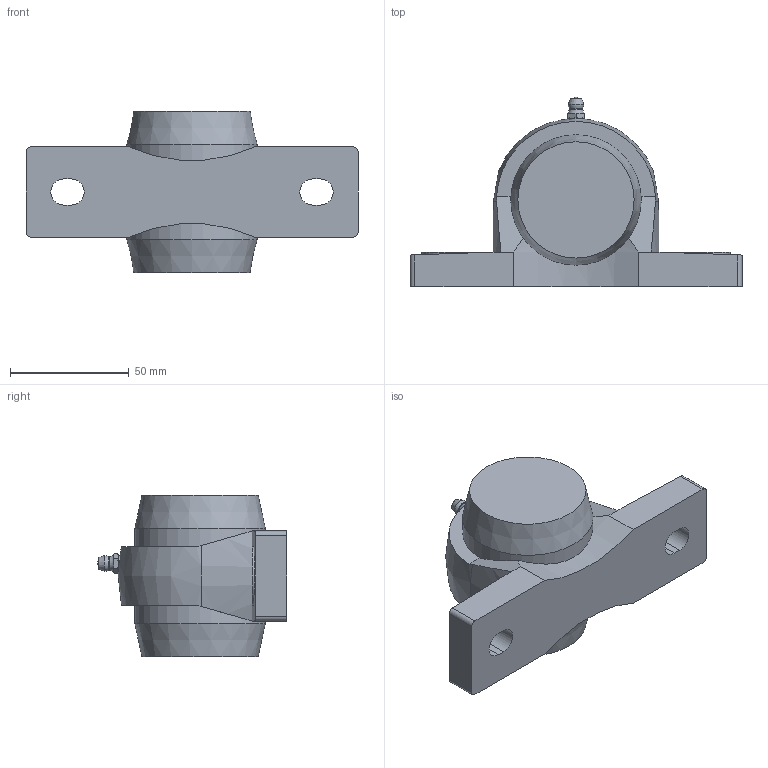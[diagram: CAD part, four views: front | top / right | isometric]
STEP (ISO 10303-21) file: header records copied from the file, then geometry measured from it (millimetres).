
FILE_DESCRIPTION(/* description */ (''),/* implementation_level */ '2;1');
FILE_NAME(/* name */ 'C:\Users\UGijyutu_200702\Desktop\77.プラスチックハウジング\MBPPL200V\MBPPL200VE\MBPPL205VE.stp',/* time_stamp */ '2023-02-10T16:36:16+09:00',/* author */ ('UGijyutu_200702'),/* organization */ (''),/* preprocessor_version */ 'ST-DEVELOPER v18',/* originating_system */ 'Autodesk Inventor 2020',/* authorisation */ '');
FILE_SCHEMA (('AUTOMOTIVE_DESIGN { 1 0 10303 214 3 1 1 }'));
Length unit declared in the file: millimetre
Products named in the file (6): MBPPL205VE; PPL205; MB5 V; 1/4-28UNF-2A; 205E; 205C
Assembly tree (5 placements, depth 2):
  MBPPL205VE
    PPL205
    MB5 V
    1/4-28UNF-2A
    205E
    205C
Bounding box: 140 x 79.8 x 68.1 mm (x, y, z)
Volume: 155607.5 mm3; surface area: 58655.2 mm2
Topology: 5 solids, 5 shells, 126 faces, 317 edges, 214 vertices
Faces by surface type: plane 66, cylinder 34, cone 19, sphere 4, torus 2, bspline 1
Full cylindrical faces by diameter (mm): 3.2 x1, 5 x2, 5.359 x1, 6.35 x1, 25 x2, 30 x1, 34 x1, 40.6 x1, 51.4 x2, 54.8 x2, 55 x2
Entity records: 4400 total; most frequent: CARTESIAN_POINT 995, DIRECTION 679, ORIENTED_EDGE 632, EDGE_CURVE 316, AXIS2_PLACEMENT_3D 273, VERTEX_POINT 214, EDGE_LOOP 152, LINE 133
